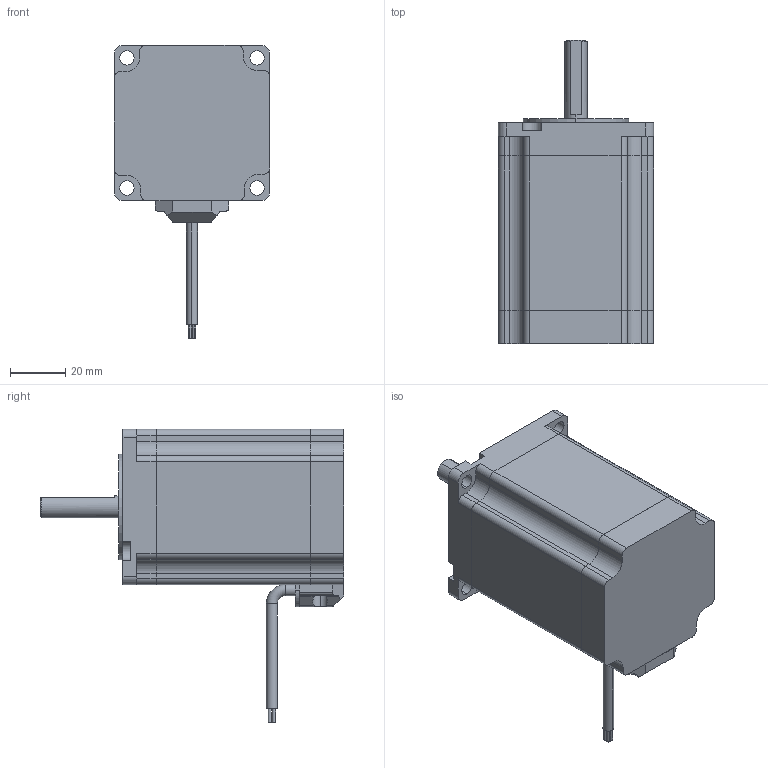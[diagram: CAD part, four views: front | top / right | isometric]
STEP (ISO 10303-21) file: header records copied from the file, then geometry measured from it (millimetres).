
FILE_DESCRIPTION (( 'STEP AP203' ), '1' );
FILE_NAME ('57HS280-4-4A-006.STEP', '2020-03-21T03:31:20', ( '' ), ( '' ), 'SwSTEP 2.0', 'SolidWorks 2017', '' );
FILE_SCHEMA (( 'CONFIG_CONTROL_DESIGN' ));
Length unit declared in the file: millimetre
Products named in the file (1): 57HS280-4-4A-006
Bounding box: 56.2 x 110 x 106.2 mm (x, y, z)
Volume: 233030.8 mm3; surface area: 30078.7 mm2
Topology: 3 solids, 3 shells, 197 faces, 535 edges, 353 vertices
Faces by surface type: cylinder 97, plane 94, cone 4, torus 2
Entity records: 6403 total; most frequent: CARTESIAN_POINT 1188, DIRECTION 1104, ORIENTED_EDGE 1070, EDGE_CURVE 535, AXIS2_PLACEMENT_3D 391, VERTEX_POINT 353, LINE 322, VECTOR 322
